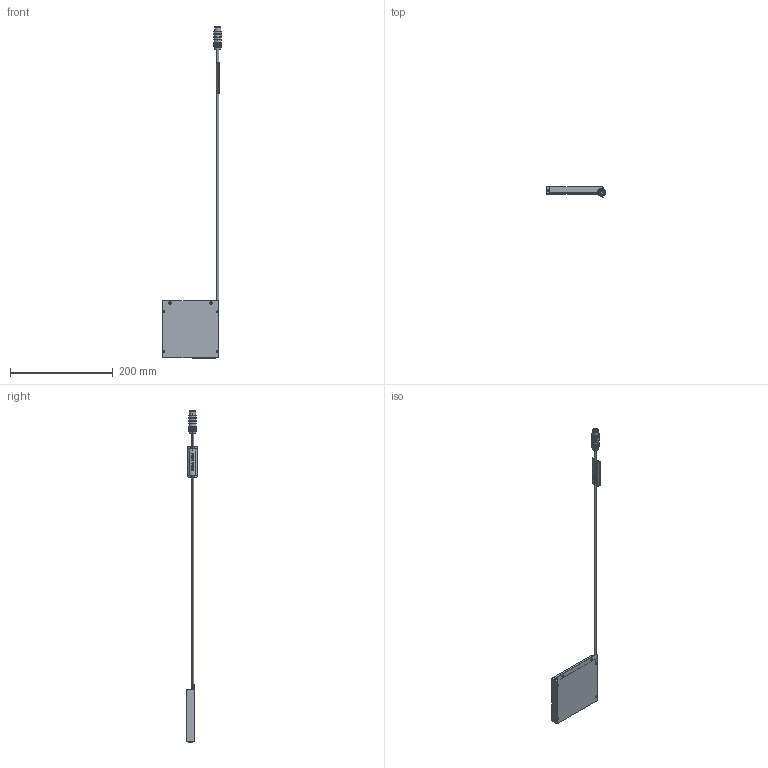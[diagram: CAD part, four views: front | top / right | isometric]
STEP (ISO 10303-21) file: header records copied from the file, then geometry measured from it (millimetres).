
FILE_DESCRIPTION (( 'STEP AP203' ), '1' );
FILE_NAME ('CV-FL-100X100RWB-M12_A21821A0101401A-001.STEP', '2024-04-25T03:44:31', ( '' ), ( '' ), 'SwSTEP 2.0', 'SolidWorks 2023', '' );
FILE_SCHEMA (( 'CONFIG_CONTROL_DESIGN' ));
Products named in the file (1): CV-FL-100X100RWB-M12_A21821A0101401A-001
Bounding box: 115.65 x 22.01 x 647.83 mm (x, y, z)
Volume: 182378.3 mm3; surface area: 44057 mm2
Topology: 3 solids, 15 shells, 1856 faces, 4874 edges, 3137 vertices
Faces by surface type: plane 1064, cylinder 387, bspline 201, cone 178, torus 26
Entity records: 62635 total; most frequent: CARTESIAN_POINT 18067, ORIENTED_EDGE 9684, DIRECTION 8542, EDGE_CURVE 4842, VERTEX_POINT 3137, LINE 2974, VECTOR 2974, AXIS2_PLACEMENT_3D 2784
